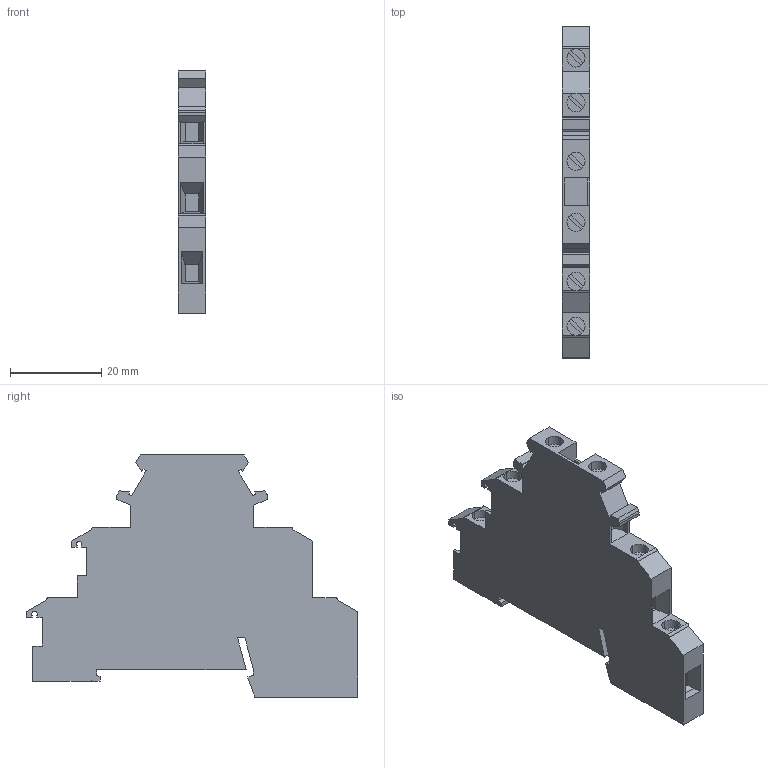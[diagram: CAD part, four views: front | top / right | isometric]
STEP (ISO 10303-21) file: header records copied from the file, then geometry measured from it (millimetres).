
FILE_DESCRIPTION(('Creo Elements/Direct Modeling STEP Export'),'2;1');
FILE_NAME('C:/temp/JobSpoolerServerData/JobServer Files/cc1889c4-414a-4e50-9644-dc037cdb969a/work/output/model.stp','2019-03-02T 0:17:29',(''),(''),'Creo Elements/Direct Modeling STEP processor for AP214 (Solid Model)','Creo Elements/Direct Modeling 20.1A 29-Sep-2018 (C) Parametric Technology GmbH','');
FILE_SCHEMA(('AUTOMOTIVE_DESIGN { 1 0 10303 214 1 1 1 1 }'));
Length unit declared in the file: millimetre
Products named in the file (2): DIKD_1.5_PV-select
Assembly tree (1 placements, depth 2):
  DIKD_1.5_PV-select
    DIKD_1.5_PV-select
Bounding box: 6.11 x 72.75 x 53.1 mm (x, y, z)
Volume: 13605.1 mm3; surface area: 7890.3 mm2
Topology: 1 solids, 1 shells, 187 faces, 513 edges, 332 vertices
Faces by surface type: plane 165, cylinder 22
Entity records: 7148 total; most frequent: ORIENTED_EDGE 1026, CARTESIAN_POINT 986, DIRECTION 875, EDGE_CURVE 513, VECTOR 433, LINE 433, VERTEX_POINT 332, AXIS2_PLACEMENT_3D 221
